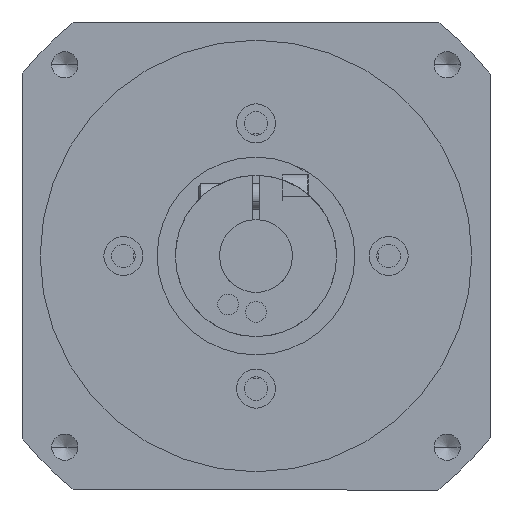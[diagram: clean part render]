
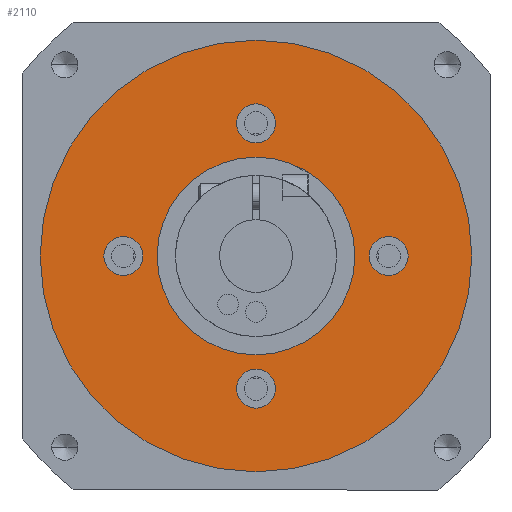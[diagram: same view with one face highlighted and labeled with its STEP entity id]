
A CAD part, front view. The second image highlights one B-rep face of the part: STEP entity #2110.
In plain terms, the highlighted planar face has unit normal (0, -1, 0) as drawn and (0, 0, -1) by its records, which use the part's own axes.
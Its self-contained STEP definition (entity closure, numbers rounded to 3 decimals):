
#81 = CIRCLE ( 'NONE', #5593, 3.75 ) ;
#144 = EDGE_LOOP ( 'NONE', ( #10042, #4412 ) ) ;
#228 = DIRECTION ( 'NONE',  ( 0., 0., -1. ) ) ;
#259 = DIRECTION ( 'NONE',  ( 0., -1., 0. ) ) ;
#464 = CIRCLE ( 'NONE', #8574, 3.75 ) ;
#533 = EDGE_CURVE ( 'NONE', #10518, #4202, #8498, .T. ) ;
#600 = FACE_BOUND ( 'NONE', #144, .T. ) ;
#726 = CIRCLE ( 'NONE', #5896, 3.75 ) ;
#740 = DIRECTION ( 'NONE',  ( 0., 0., 1. ) ) ;
#903 = DIRECTION ( 'NONE',  ( 0., 0., 1. ) ) ;
#1029 = ORIENTED_EDGE ( 'NONE', *, *, #8564, .T. ) ;
#1047 = CARTESIAN_POINT ( 'NONE',  ( 0., 0., -21.5 ) ) ;
#1127 = VERTEX_POINT ( 'NONE', #9746 ) ;
#1139 = EDGE_CURVE ( 'NONE', #4873, #1336, #7103, .T. ) ;
#1215 = CARTESIAN_POINT ( 'NONE',  ( 0., 25.5, -21.5 ) ) ;
#1336 = VERTEX_POINT ( 'NONE', #1712 ) ;
#1493 = CARTESIAN_POINT ( 'NONE',  ( 0., -19., -21.5 ) ) ;
#1696 = VERTEX_POINT ( 'NONE', #5651 ) ;
#1712 = CARTESIAN_POINT ( 'NONE',  ( -25.5, -3.75, -21.5 ) ) ;
#1965 = CARTESIAN_POINT ( 'NONE',  ( 0., -29.25, -21.5 ) ) ;
#2017 = ORIENTED_EDGE ( 'NONE', *, *, #1139, .T. ) ;
#2051 = DIRECTION ( 'NONE',  ( 0., 1., 0. ) ) ;
#2110 = ADVANCED_FACE ( 'NONE', ( #2768, #4696, #600, #6828, #8954, #2508 ), #2796, .T. ) ;
#2215 = EDGE_LOOP ( 'NONE', ( #3604, #2553 ) ) ;
#2508 = FACE_BOUND ( 'NONE', #5412, .T. ) ;
#2529 = AXIS2_PLACEMENT_3D ( 'NONE', #9823, #6945, #259 ) ;
#2553 = ORIENTED_EDGE ( 'NONE', *, *, #533, .T. ) ;
#2642 = VERTEX_POINT ( 'NONE', #2655 ) ;
#2655 = CARTESIAN_POINT ( 'NONE',  ( 25.5, 3.75, -21.5 ) ) ;
#2768 = FACE_OUTER_BOUND ( 'NONE', #2215, .T. ) ;
#2796 = PLANE ( 'NONE',  #8741 ) ;
#2820 = CIRCLE ( 'NONE', #9261, 41.5 ) ;
#2933 = CARTESIAN_POINT ( 'NONE',  ( 0., 41.5, -21.5 ) ) ;
#2958 = EDGE_CURVE ( 'NONE', #1696, #7742, #9952, .T. ) ;
#3020 = CARTESIAN_POINT ( 'NONE',  ( -25.5, 3.75, -21.5 ) ) ;
#3060 = DIRECTION ( 'NONE',  ( 0., -1., 0. ) ) ;
#3090 = DIRECTION ( 'NONE',  ( 0., 0., 1. ) ) ;
#3157 = CARTESIAN_POINT ( 'NONE',  ( 0., 0., -21.5 ) ) ;
#3257 = DIRECTION ( 'NONE',  ( 0., 1., 0. ) ) ;
#3384 = EDGE_LOOP ( 'NONE', ( #8535, #9443 ) ) ;
#3604 = ORIENTED_EDGE ( 'NONE', *, *, #4919, .T. ) ;
#3765 = ORIENTED_EDGE ( 'NONE', *, *, #7372, .T. ) ;
#3789 = DIRECTION ( 'NONE',  ( 0., -1., 0. ) ) ;
#3912 = DIRECTION ( 'NONE',  ( 0., 1., 0. ) ) ;
#3920 = CARTESIAN_POINT ( 'NONE',  ( 0., 0., -21.5 ) ) ;
#4202 = VERTEX_POINT ( 'NONE', #5752 ) ;
#4378 = CARTESIAN_POINT ( 'NONE',  ( 25.5, 0., -21.5 ) ) ;
#4412 = ORIENTED_EDGE ( 'NONE', *, *, #7452, .T. ) ;
#4571 = EDGE_CURVE ( 'NONE', #7742, #1696, #5619, .T. ) ;
#4628 = DIRECTION ( 'NONE',  ( 0., 0., 1. ) ) ;
#4696 = FACE_BOUND ( 'NONE', #9776, .T. ) ;
#4743 = DIRECTION ( 'NONE',  ( 0., -1., 0. ) ) ;
#4744 = DIRECTION ( 'NONE',  ( 0., 0., 1. ) ) ;
#4873 = VERTEX_POINT ( 'NONE', #3020 ) ;
#4881 = DIRECTION ( 'NONE',  ( 0., 0., 1. ) ) ;
#4919 = EDGE_CURVE ( 'NONE', #4202, #10518, #2820, .T. ) ;
#4950 = CIRCLE ( 'NONE', #10131, 3.75 ) ;
#5147 = AXIS2_PLACEMENT_3D ( 'NONE', #3157, #3090, #3060 ) ;
#5208 = DIRECTION ( 'NONE',  ( 0., 1., 0. ) ) ;
#5316 = VERTEX_POINT ( 'NONE', #1965 ) ;
#5412 = EDGE_LOOP ( 'NONE', ( #2017, #1029 ) ) ;
#5463 = CIRCLE ( 'NONE', #5879, 3.75 ) ;
#5468 = DIRECTION ( 'NONE',  ( 0., 0., -1. ) ) ;
#5575 = AXIS2_PLACEMENT_3D ( 'NONE', #9686, #4881, #10516 ) ;
#5593 = AXIS2_PLACEMENT_3D ( 'NONE', #9430, #4628, #10263 ) ;
#5602 = CARTESIAN_POINT ( 'NONE',  ( 25.5, 0., -21.5 ) ) ;
#5619 = CIRCLE ( 'NONE', #5147, 19. ) ;
#5651 = CARTESIAN_POINT ( 'NONE',  ( 0., 19., -21.5 ) ) ;
#5752 = CARTESIAN_POINT ( 'NONE',  ( 0., -41.5, -21.5 ) ) ;
#5762 = CARTESIAN_POINT ( 'NONE',  ( -25.5, 0., -21.5 ) ) ;
#5799 = AXIS2_PLACEMENT_3D ( 'NONE', #4378, #10019, #5208 ) ;
#5879 = AXIS2_PLACEMENT_3D ( 'NONE', #5762, #903, #6567 ) ;
#5896 = AXIS2_PLACEMENT_3D ( 'NONE', #9542, #4744, #10369 ) ;
#5907 = VERTEX_POINT ( 'NONE', #10415 ) ;
#6021 = EDGE_CURVE ( 'NONE', #9876, #5907, #6114, .T. ) ;
#6114 = CIRCLE ( 'NONE', #5575, 3.75 ) ;
#6117 = CARTESIAN_POINT ( 'NONE',  ( 0., 29.25, -21.5 ) ) ;
#6211 = CIRCLE ( 'NONE', #5799, 3.75 ) ;
#6411 = DIRECTION ( 'NONE',  ( 0., 1., 0. ) ) ;
#6567 = DIRECTION ( 'NONE',  ( 0., 1., 0. ) ) ;
#6828 = FACE_BOUND ( 'NONE', #7576, .T. ) ;
#6874 = DIRECTION ( 'NONE',  ( 0., 0., 1. ) ) ;
#6945 = DIRECTION ( 'NONE',  ( 0., 0., 1. ) ) ;
#6970 = AXIS2_PLACEMENT_3D ( 'NONE', #1047, #228, #3789 ) ;
#7054 = ORIENTED_EDGE ( 'NONE', *, *, #4571, .T. ) ;
#7103 = CIRCLE ( 'NONE', #10359, 3.75 ) ;
#7321 = CARTESIAN_POINT ( 'NONE',  ( 0., -21.75, -21.5 ) ) ;
#7372 = EDGE_CURVE ( 'NONE', #1127, #2642, #6211, .T. ) ;
#7452 = EDGE_CURVE ( 'NONE', #5907, #9876, #4950, .T. ) ;
#7574 = EDGE_CURVE ( 'NONE', #5316, #10249, #81, .T. ) ;
#7576 = EDGE_LOOP ( 'NONE', ( #10088, #3765 ) ) ;
#7742 = VERTEX_POINT ( 'NONE', #8008 ) ;
#8008 = CARTESIAN_POINT ( 'NONE',  ( 0., -19., -21.5 ) ) ;
#8498 = CIRCLE ( 'NONE', #6970, 41.5 ) ;
#8535 = ORIENTED_EDGE ( 'NONE', *, *, #10079, .T. ) ;
#8564 = EDGE_CURVE ( 'NONE', #1336, #4873, #5463, .T. ) ;
#8574 = AXIS2_PLACEMENT_3D ( 'NONE', #5602, #740, #6411 ) ;
#8741 = AXIS2_PLACEMENT_3D ( 'NONE', #1493, #5468, #3912 ) ;
#8954 = FACE_BOUND ( 'NONE', #3384, .T. ) ;
#9261 = AXIS2_PLACEMENT_3D ( 'NONE', #3920, #9541, #4743 ) ;
#9430 = CARTESIAN_POINT ( 'NONE',  ( 0., -25.5, -21.5 ) ) ;
#9443 = ORIENTED_EDGE ( 'NONE', *, *, #7574, .T. ) ;
#9541 = DIRECTION ( 'NONE',  ( 0., 0., -1. ) ) ;
#9542 = CARTESIAN_POINT ( 'NONE',  ( 0., -25.5, -21.5 ) ) ;
#9686 = CARTESIAN_POINT ( 'NONE',  ( 0., 25.5, -21.5 ) ) ;
#9746 = CARTESIAN_POINT ( 'NONE',  ( 25.5, -3.75, -21.5 ) ) ;
#9776 = EDGE_LOOP ( 'NONE', ( #7054, #10315 ) ) ;
#9823 = CARTESIAN_POINT ( 'NONE',  ( 0., 0., -21.5 ) ) ;
#9876 = VERTEX_POINT ( 'NONE', #6117 ) ;
#9952 = CIRCLE ( 'NONE', #2529, 19. ) ;
#10019 = DIRECTION ( 'NONE',  ( 0., 0., 1. ) ) ;
#10042 = ORIENTED_EDGE ( 'NONE', *, *, #6021, .T. ) ;
#10068 = CARTESIAN_POINT ( 'NONE',  ( -25.5, 0., -21.5 ) ) ;
#10079 = EDGE_CURVE ( 'NONE', #10249, #5316, #726, .T. ) ;
#10088 = ORIENTED_EDGE ( 'NONE', *, *, #10147, .T. ) ;
#10131 = AXIS2_PLACEMENT_3D ( 'NONE', #1215, #6874, #2051 ) ;
#10147 = EDGE_CURVE ( 'NONE', #2642, #1127, #464, .T. ) ;
#10249 = VERTEX_POINT ( 'NONE', #7321 ) ;
#10263 = DIRECTION ( 'NONE',  ( 0., 1., 0. ) ) ;
#10315 = ORIENTED_EDGE ( 'NONE', *, *, #2958, .T. ) ;
#10359 = AXIS2_PLACEMENT_3D ( 'NONE', #10068, #10498, #3257 ) ;
#10369 = DIRECTION ( 'NONE',  ( 0., 1., 0. ) ) ;
#10415 = CARTESIAN_POINT ( 'NONE',  ( 0., 21.75, -21.5 ) ) ;
#10498 = DIRECTION ( 'NONE',  ( 0., 0., 1. ) ) ;
#10516 = DIRECTION ( 'NONE',  ( 0., 1., 0. ) ) ;
#10518 = VERTEX_POINT ( 'NONE', #2933 ) ;
